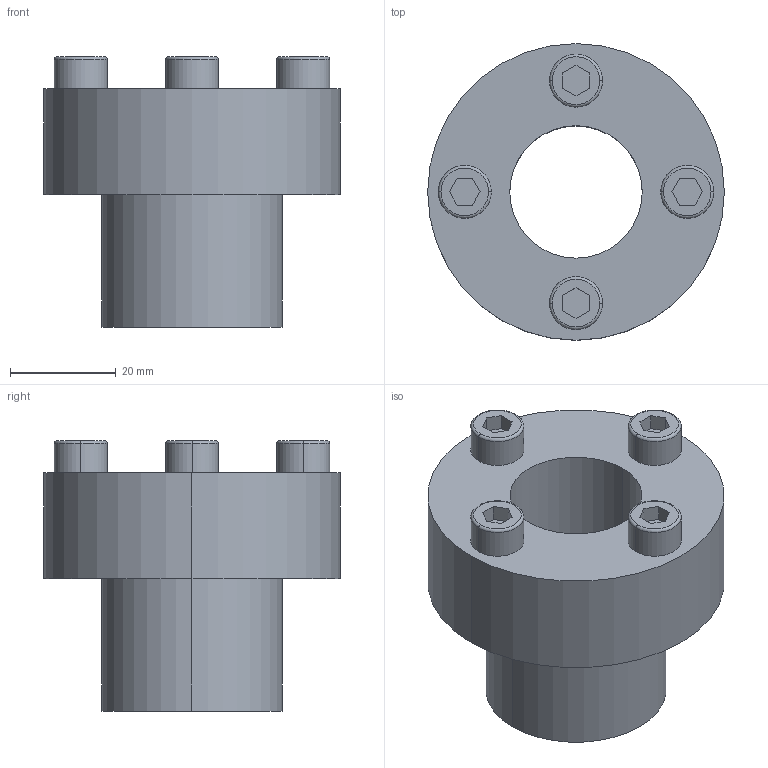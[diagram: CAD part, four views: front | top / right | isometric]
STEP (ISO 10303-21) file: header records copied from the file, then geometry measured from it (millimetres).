
FILE_DESCRIPTION (( 'STEP AP203' ), '1' );
FILE_NAME ('PL-C 25-34.STEP', '2021-10-22T08:39:17', ( '' ), ( '' ), 'SwSTEP 2.0', 'SolidWorks 2018', '' );
FILE_SCHEMA (( 'CONFIG_CONTROL_DESIGN' ));
Length unit declared in the file: millimetre
Products named in the file (1): PL-C 25-34
Bounding box: 56 x 56 x 51 mm (x, y, z)
Volume: 51487.4 mm3; surface area: 14601.9 mm2
Topology: 1 solids, 1 shells, 57 faces, 130 edges, 84 vertices
Faces by surface type: plane 35, cylinder 14, torus 8
Entity records: 1685 total; most frequent: DIRECTION 290, CARTESIAN_POINT 272, ORIENTED_EDGE 260, EDGE_CURVE 130, AXIS2_PLACEMENT_3D 102, VECTOR 86, LINE 86, VERTEX_POINT 84
